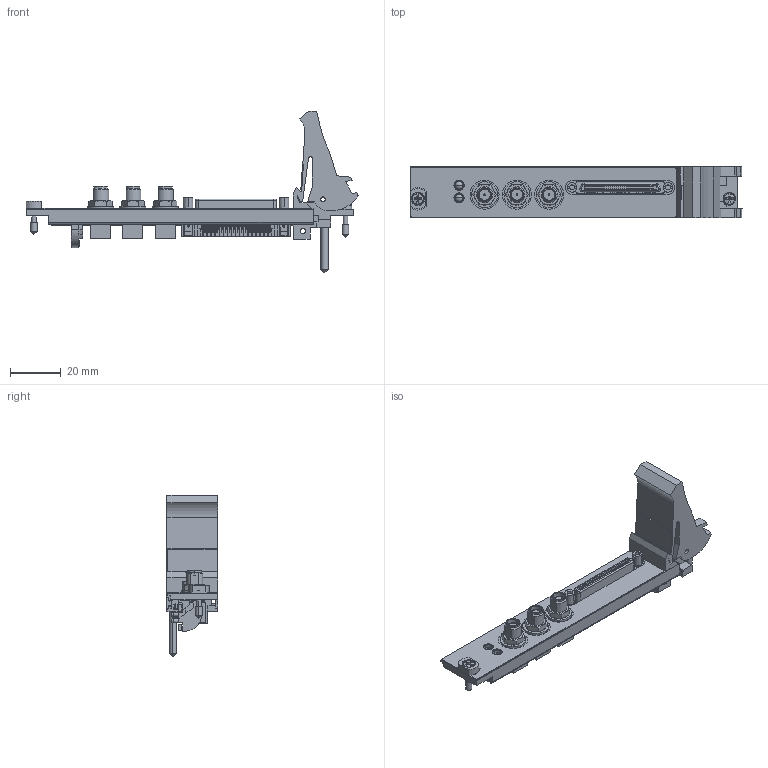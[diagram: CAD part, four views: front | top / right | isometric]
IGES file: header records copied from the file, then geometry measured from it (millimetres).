
Start section:  PTC IGES file: cu_pxie-654x.igs
Global section: file name: cu_pxie-654x.igs; native system: Pro/ENGINEER by Parametric Technology Corporation; preprocessor: 2006080; author: jjorden; organization: Unknown; date: 091228.151050; units: inch
Bounding box: 130.5 x 20.31 x 63.53 mm (x, y, z)
Surface area: 21340.6 mm2 (no closed solid volume)
Topology: 0 solids, 0 shells, 2436 faces, 13192 edges, 13184 vertices
Faces by surface type: bspline 1850, revolution 586
